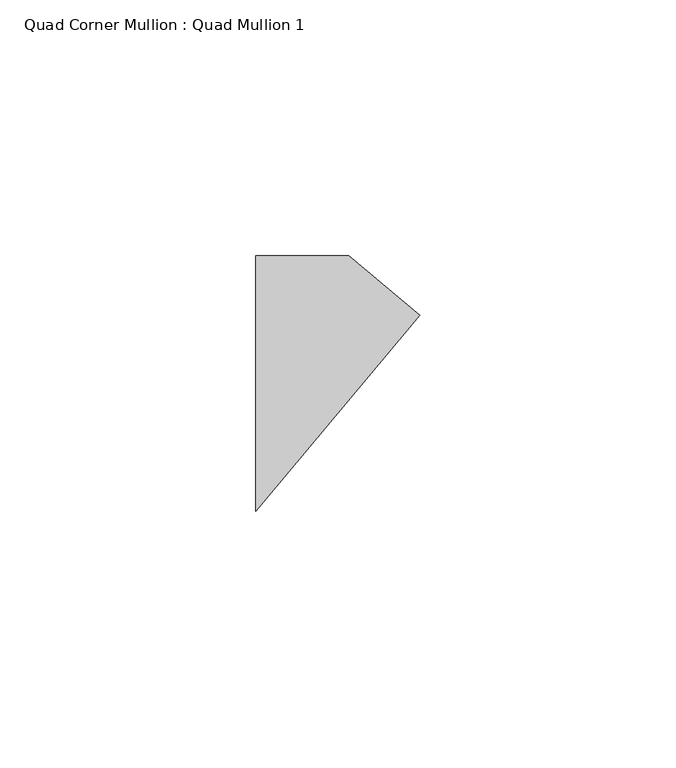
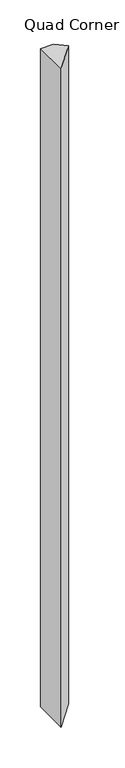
"""IFC4 building model written with IfcOpenShell, lengths in millimetres: member geometry, Quad Corner Mullion : Quad Mullion 1."""

from ifc_helpers import new_model, si_unit, frame, origin, place, context, project, spatial, polyline, outline, extrude, source, transform, mapped, element, save


def quad_corner_mullion_quad_mullion_1_ed44a44e(model_context):
    return source(origin(), model_context, "Body", "SweptSolid", [
        extrude(outline(polyline([(23.0148958, 13.3357545), (-9.08448, -25.0), (-9.08448, 25.0), (9.08448, 25.0), (23.0148958, 13.3357545)])), frame((0.0, 0.0, -980.0), z_axis=(0.0, 0.0, 1.0), x_axis=(1.0, 0.0, 0.0)), (0.0, 0.0, 1.0), 980.0),
    ])


if __name__ == "__main__":
    model = new_model("IFC4")
    model_context = context("Model", 3, world=origin())
    ifc_project = project(units=[si_unit("LENGTHUNIT", "METRE", prefix="MILLI")], contexts=[model_context])
    site = spatial("IfcSite", under=ifc_project)
    building = spatial("IfcBuilding", under=site)
    placement = place(None, origin())
    quad_corner_mullion_quad_mullion_1_shape = quad_corner_mullion_quad_mullion_1_ed44a44e(model_context)
    element("IfcMember", 1, ObjectType="Quad Corner Mullion : Quad Mullion 1", at=placement, inside=building, context=model_context, shape_type="MappedRepresentation", body=[
        mapped(quad_corner_mullion_quad_mullion_1_shape, transform((0.0, 0.0, 0.0), x_axis=(1.0, 0.0, 0.0), y_axis=(0.0, 1.0, 0.0), z_axis=(0.0, 0.0, 1.0))),
    ])
    save(model, "model.ifc")
